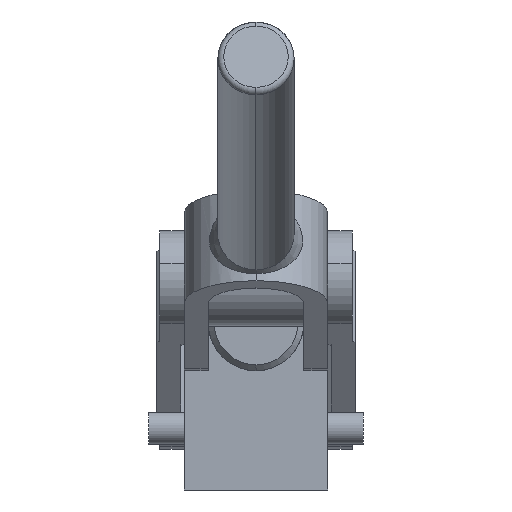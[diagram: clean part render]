
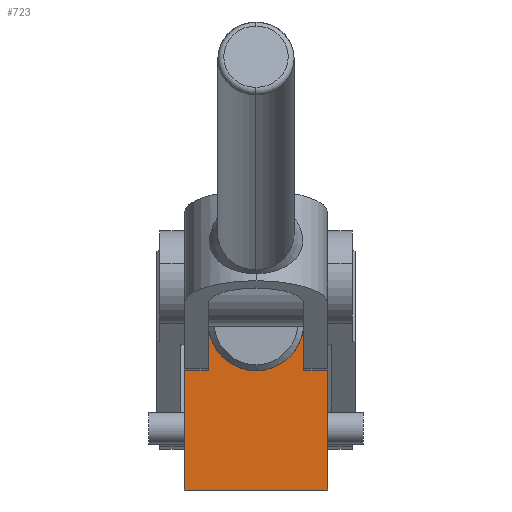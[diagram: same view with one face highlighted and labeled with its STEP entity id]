
A CAD part, left-side view. The second image highlights one B-rep face of the part: STEP entity #723.
In plain terms, the highlighted planar face has unit normal (-1, 0, 0).
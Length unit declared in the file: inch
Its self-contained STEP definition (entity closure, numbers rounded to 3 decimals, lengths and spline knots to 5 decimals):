
#723 = ADVANCED_FACE( '', ( #1001, #1002 ), #1003, .T. );
#1001 = FACE_OUTER_BOUND( '', #1294, .T. );
#1002 = FACE_BOUND( '', #1295, .T. );
#1003 = PLANE( '', #1296 );
#1294 = EDGE_LOOP( '', ( #2351, #2352, #2353, #2354 ) );
#1295 = EDGE_LOOP( '', ( #2355, #2356, #2357 ) );
#1296 = AXIS2_PLACEMENT_3D( '', #2358, #2359, #2360 );
#2351 = ORIENTED_EDGE( '', *, *, #2790, .T. );
#2352 = ORIENTED_EDGE( '', *, *, #2791, .F. );
#2353 = ORIENTED_EDGE( '', *, *, #2792, .F. );
#2354 = ORIENTED_EDGE( '', *, *, #2780, .T. );
#2355 = ORIENTED_EDGE( '', *, *, #2765, .T. );
#2356 = ORIENTED_EDGE( '', *, *, #2793, .T. );
#2357 = ORIENTED_EDGE( '', *, *, #2766, .T. );
#2358 = CARTESIAN_POINT( '', ( -1.75, -0.375, 0. ) );
#2359 = DIRECTION( '', ( -1., 0., 0. ) );
#2360 = DIRECTION( '', ( 0., 0., 1. ) );
#2765 = EDGE_CURVE( '', #3347, #3345, #3348, .T. );
#2766 = EDGE_CURVE( '', #3339, #3347, #3349, .T. );
#2780 = EDGE_CURVE( '', #3375, #3372, #3376, .T. );
#2790 = EDGE_CURVE( '', #3372, #3389, #3391, .T. );
#2791 = EDGE_CURVE( '', #3392, #3389, #3393, .T. );
#2792 = EDGE_CURVE( '', #3375, #3392, #3394, .T. );
#2793 = EDGE_CURVE( '', #3345, #3339, #3395, .T. );
#3339 = VERTEX_POINT( '', #4233 );
#3345 = VERTEX_POINT( '', #4240 );
#3347 = VERTEX_POINT( '', #4243 );
#3348 = CIRCLE( '', #4244, 0.2505 );
#3349 = CIRCLE( '', #4245, 0.2505 );
#3372 = VERTEX_POINT( '', #4272 );
#3375 = VERTEX_POINT( '', #4276 );
#3376 = LINE( '', #4277, #4278 );
#3389 = VERTEX_POINT( '', #4296 );
#3391 = LINE( '', #4299, #4300 );
#3392 = VERTEX_POINT( '', #4301 );
#3393 = LINE( '', #4302, #4303 );
#3394 = LINE( '', #4304, #4305 );
#3395 = CIRCLE( '', #4306, 0.2505 );
#4233 = CARTESIAN_POINT( '', ( -1.75, 0., 0.6245 ) );
#4240 = CARTESIAN_POINT( '', ( -1.75, 0., 1.1255 ) );
#4243 = CARTESIAN_POINT( '', ( -1.75, 0.2505, 0.875 ) );
#4244 = AXIS2_PLACEMENT_3D( '', #4950, #4951, #4952 );
#4245 = AXIS2_PLACEMENT_3D( '', #4953, #4954, #4955 );
#4272 = CARTESIAN_POINT( '', ( -1.75, -0.375, 1.25 ) );
#4276 = CARTESIAN_POINT( '', ( -1.75, -0.375, 0. ) );
#4277 = CARTESIAN_POINT( '', ( -1.75, -0.375, 0. ) );
#4278 = VECTOR( '', #4985, 1. );
#4296 = CARTESIAN_POINT( '', ( -1.75, 0.375, 1.25 ) );
#4299 = CARTESIAN_POINT( '', ( -1.75, -0.375, 1.25 ) );
#4300 = VECTOR( '', #5001, 1. );
#4301 = CARTESIAN_POINT( '', ( -1.75, 0.375, 0. ) );
#4302 = CARTESIAN_POINT( '', ( -1.75, 0.375, 0. ) );
#4303 = VECTOR( '', #5002, 1. );
#4304 = CARTESIAN_POINT( '', ( -1.75, -0.375, 0. ) );
#4305 = VECTOR( '', #5003, 1. );
#4306 = AXIS2_PLACEMENT_3D( '', #5004, #5005, #5006 );
#4950 = CARTESIAN_POINT( '', ( -1.75, 0., 0.875 ) );
#4951 = DIRECTION( '', ( 1., 0., 0. ) );
#4952 = DIRECTION( '', ( 0., 1., 0. ) );
#4953 = CARTESIAN_POINT( '', ( -1.75, 0., 0.875 ) );
#4954 = DIRECTION( '', ( 1., 0., 0. ) );
#4955 = DIRECTION( '', ( 0., 1., 0. ) );
#4985 = DIRECTION( '', ( 0., 0., 1. ) );
#5001 = DIRECTION( '', ( 0., 1., 0. ) );
#5002 = DIRECTION( '', ( 0., 0., 1. ) );
#5003 = DIRECTION( '', ( 0., 1., 0. ) );
#5004 = CARTESIAN_POINT( '', ( -1.75, 0., 0.875 ) );
#5005 = DIRECTION( '', ( 1., 0., 0. ) );
#5006 = DIRECTION( '', ( 0., 1., 0. ) );
